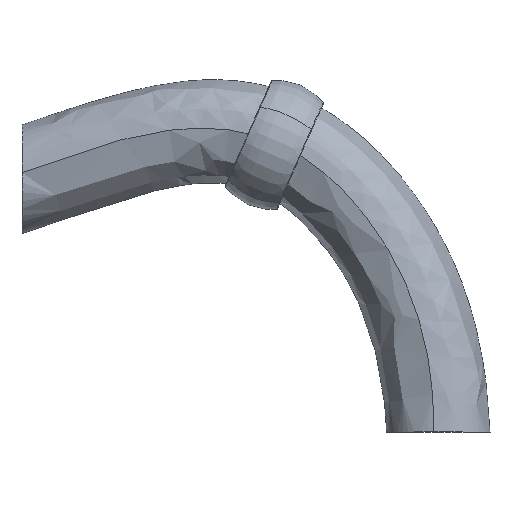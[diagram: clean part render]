
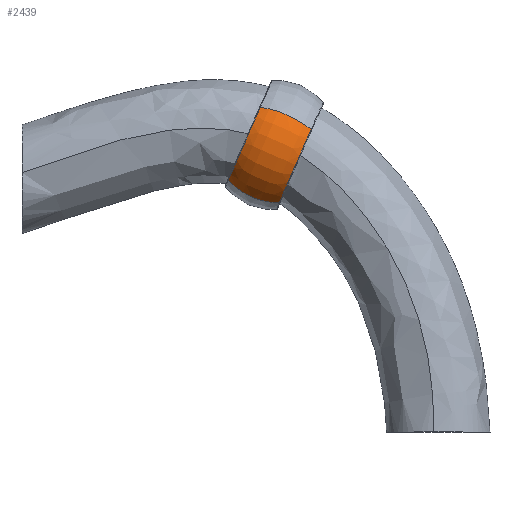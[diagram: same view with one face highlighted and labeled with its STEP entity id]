
A CAD part, top view. The second image highlights one B-rep face of the part: STEP entity #2439.
In plain terms, the highlighted toroidal (fillet/blend) face has major radius 6.997 mm and minor radius 45 mm.
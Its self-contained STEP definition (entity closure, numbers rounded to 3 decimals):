
#17 = CIRCLE ( 'NONE', #1962, 45. ) ;
#35 = DIRECTION ( 'NONE',  ( 0.916, -0.402, 0.005 ) ) ;
#298 = TOROIDAL_SURFACE ( 'NONE', #1930, 6.998, 45. ) ;
#357 = ORIENTED_EDGE ( 'NONE', *, *, #1643, .T. ) ;
#419 = CARTESIAN_POINT ( 'NONE',  ( 2155.835, 403.011, 2904.346 ) ) ;
#501 = ORIENTED_EDGE ( 'NONE', *, *, #1048, .T. ) ;
#547 = CIRCLE ( 'NONE', #2167, 45. ) ;
#578 = ORIENTED_EDGE ( 'NONE', *, *, #1543, .T. ) ;
#828 = DIRECTION ( 'NONE',  ( -0.351, -0.794, 0.497 ) ) ;
#1019 = CIRCLE ( 'NONE', #2941, 46.248 ) ;
#1048 = EDGE_CURVE ( 'NONE', #3085, #3371, #547, .T. ) ;
#1056 = EDGE_CURVE ( 'NONE', #1498, #3240, #17, .T. ) ;
#1082 = CARTESIAN_POINT ( 'NONE',  ( 2153.38, 397.456, 2907.823 ) ) ;
#1097 = DIRECTION ( 'NONE',  ( 0.196, 0.457, 0.868 ) ) ;
#1100 = DIRECTION ( 'NONE',  ( -0.351, -0.794, 0.497 ) ) ;
#1104 = CARTESIAN_POINT ( 'NONE',  ( 2157.206, 406.205, 2910.419 ) ) ;
#1127 = CARTESIAN_POINT ( 'NONE',  ( 2144.742, 432.967, 2944.382 ) ) ;
#1208 = DIRECTION ( 'NONE',  ( 0., -0.885, 0.466 ) ) ;
#1218 = DIRECTION ( 'NONE',  ( 0.196, 0.457, 0.868 ) ) ;
#1235 = ORIENTED_EDGE ( 'NONE', *, *, #1056, .T. ) ;
#1460 = CARTESIAN_POINT ( 'NONE',  ( 2119.457, 375.141, 2927.219 ) ) ;
#1498 = VERTEX_POINT ( 'NONE', #2894 ) ;
#1543 = EDGE_CURVE ( 'NONE', #3371, #1498, #2422, .T. ) ;
#1643 = EDGE_CURVE ( 'NONE', #3240, #3085, #1019, .T. ) ;
#1930 = AXIS2_PLACEMENT_3D ( 'NONE', #419, #35, #828 ) ;
#1962 = AXIS2_PLACEMENT_3D ( 'NONE', #1104, #1100, #1097 ) ;
#2167 = AXIS2_PLACEMENT_3D ( 'NONE', #1082, #1218, #1208 ) ;
#2173 = DIRECTION ( 'NONE',  ( -0.351, -0.794, 0.497 ) ) ;
#2179 = DIRECTION ( 'NONE',  ( 0.916, -0.402, 0.005 ) ) ;
#2188 = CARTESIAN_POINT ( 'NONE',  ( 2135.681, 411.854, 2904.245 ) ) ;
#2422 = CIRCLE ( 'NONE', #2956, 46.248 ) ;
#2439 = ADVANCED_FACE ( 'NONE', ( #2536 ), #298, .T. ) ;
#2536 = FACE_OUTER_BOUND ( 'NONE', #2749, .T. ) ;
#2749 = EDGE_LOOP ( 'NONE', ( #357, #501, #578, #1235 ) ) ;
#2759 = DIRECTION ( 'NONE',  ( -0.351, -0.794, 0.497 ) ) ;
#2764 = DIRECTION ( 'NONE',  ( -0.916, 0.402, -0.005 ) ) ;
#2768 = CARTESIAN_POINT ( 'NONE',  ( 2175.989, 394.168, 2904.448 ) ) ;
#2894 = CARTESIAN_POINT ( 'NONE',  ( 2185.05, 415.281, 2944.586 ) ) ;
#2941 = AXIS2_PLACEMENT_3D ( 'NONE', #2188, #2179, #2173 ) ;
#2956 = AXIS2_PLACEMENT_3D ( 'NONE', #2768, #2764, #2759 ) ;
#3085 = VERTEX_POINT ( 'NONE', #1460 ) ;
#3240 = VERTEX_POINT ( 'NONE', #1127 ) ;
#3351 = CARTESIAN_POINT ( 'NONE',  ( 2159.765, 357.455, 2927.423 ) ) ;
#3371 = VERTEX_POINT ( 'NONE', #3351 ) ;
